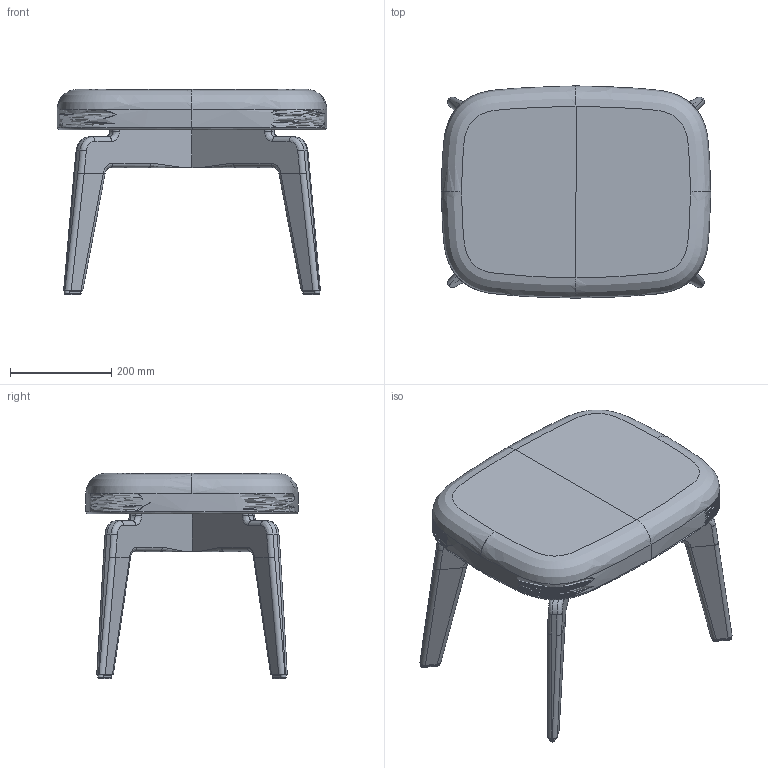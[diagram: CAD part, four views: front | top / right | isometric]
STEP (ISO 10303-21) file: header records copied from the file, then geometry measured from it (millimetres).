
FILE_DESCRIPTION(/* description */ (''),/* implementation_level */ '2;1');
FILE_NAME(/* name */ 'SuH_Munich_Stool_3D_JS_20230724',/* time_stamp */ '2023-07-24T11:25:48+02:00',/* author */ (''),/* organization */ (''),/* preprocessor_version */ 'ST-DEVELOPER v16.5',/* originating_system */ 'Rhino 7.31',/* authorisation */ '');
FILE_SCHEMA (('CONFIG_CONTROL_DESIGN'));
Length unit declared in the file: millimetre
Products named in the file (1): Document
Bounding box: 533.18 x 420.05 x 406.37 mm (x, y, z)
Volume: 14066284.4 mm3; surface area: 855560.8 mm2
Topology: 5 solids, 7 shells, 216 faces, 594 edges, 364 vertices
Faces by surface type: cylinder 84, plane 76, bspline 56
Entity records: 11238 total; most frequent: CARTESIAN_POINT 7709, ORIENTED_EDGE 1108, EDGE_CURVE 586, VERTEX_POINT 364, EDGE_LOOP 228, ADVANCED_FACE 216, FACE_OUTER_BOUND 216, B_SPLINE_CURVE_WITH_KNOTS 204
